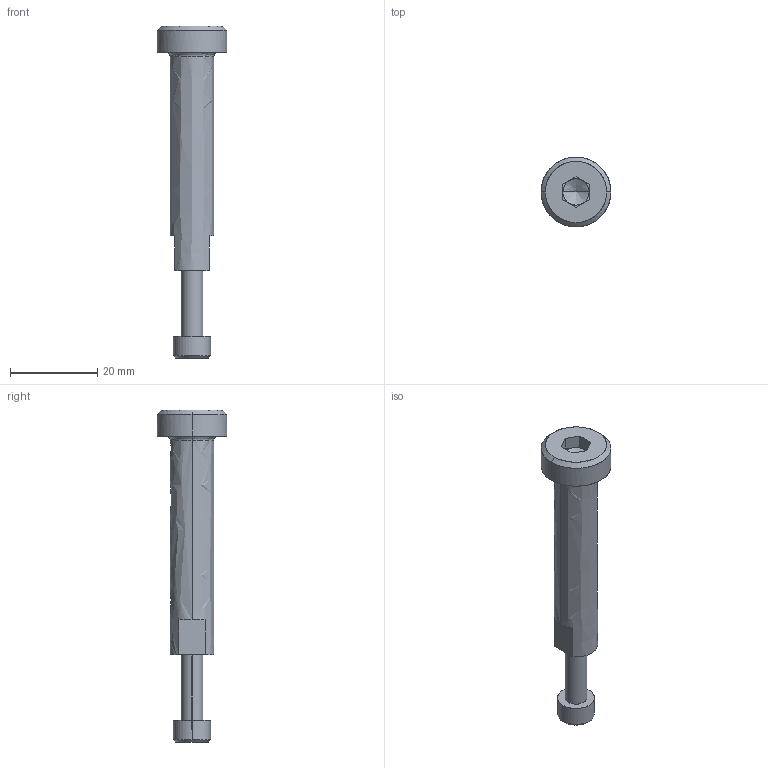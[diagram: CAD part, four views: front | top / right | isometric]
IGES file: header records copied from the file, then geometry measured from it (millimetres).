
Global section: file name: E:\UnigraphicsGraphicData\MISUMI_PRESS-PARTS\IGES\3d_sbtl10-50-30_05174_r00.igs; native system: NX V5.0; preprocessor: UGS NX IGES V5.0; author: MISUMI; date: 20110105.162503; units: millimetre
Bounding box: 16 x 16 x 76 mm (x, y, z)
Surface area: 3327.4 mm2 (no closed solid volume)
Topology: 0 solids, 0 shells, 54 faces, 292 edges, 288 vertices
Faces by surface type: bspline 54
